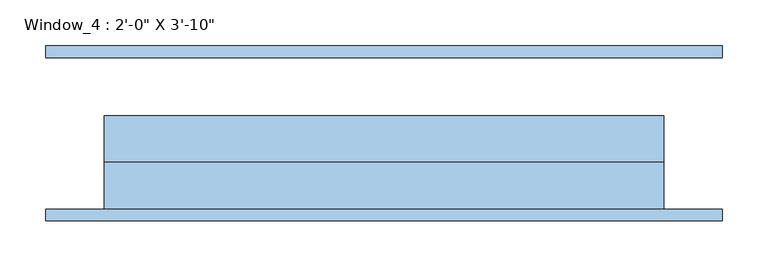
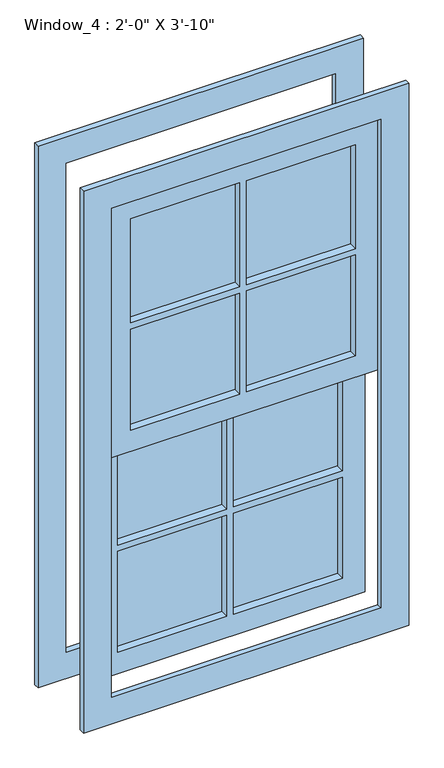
"""IFC4 building model written with IfcOpenShell, lengths in millimetres: window geometry."""

from ifc_helpers import new_model, si_unit, frame, origin, place, context, project, spatial, polyline, outline, extrude, source, transform, mapped, element, save


def window_7b8e3ef4(model_context):
    return source(origin(), model_context, "Body", "SweptSolid", [
        extrude(outline(polyline([(254.0, -50.8), (254.0, -64.0853592), (7.540625, -64.0853592), (7.540625, -50.8), (254.0, -50.8)])), frame((0.0, 0.0, 1732.75625), z_axis=(0.0, 0.0, 1.0), x_axis=(1.0, 0.0, 0.0)), (0.0, 0.0, 1.0), 248.44375),
        extrude(outline(polyline([(-7.540625, -50.8), (-7.540625, -64.0853592), (-254.0, -64.0853592), (-254.0, -50.8), (-7.540625, -50.8)])), frame((0.0, 0.0, 1732.75625), z_axis=(0.0, 0.0, 1.0), x_axis=(1.0, 0.0, 0.0)), (0.0, 0.0, 1.0), 248.44375),
        extrude(outline(polyline([(254.0, -50.8), (254.0, -64.0853592), (7.540625, -64.0853592), (7.540625, -50.8), (254.0, -50.8)])), frame((0.0, 0.0, 1476.375), z_axis=(0.0, 0.0, 1.0), x_axis=(1.0, 0.0, 0.0)), (0.0, 0.0, 1.0), 241.3),
        extrude(outline(polyline([(-7.540625, -50.8), (-7.540625, -64.0853592), (-254.0, -64.0853592), (-254.0, -50.8), (-7.540625, -50.8)])), frame((0.0, 0.0, 1476.375), z_axis=(0.0, 0.0, 1.0), x_axis=(1.0, 0.0, 0.0)), (0.0, 0.0, 1.0), 241.3),
        extrude(outline(polyline([(2032.0, -304.8), (1425.575, -304.8), (1425.575, 304.8), (2032.0, 304.8), (2032.0, -304.8)]), holes=[polyline([(1981.2, 7.540625), (1981.2, 254.0), (1732.75625, 254.0), (1732.75625, 7.540625), (1981.2, 7.540625)]), polyline([(1476.375, 7.540625), (1717.675, 7.540625), (1717.675, 254.0), (1476.375, 254.0), (1476.375, 7.540625)]), polyline([(1732.75625, -254.0), (1981.2, -254.0), (1981.2, -7.540625), (1732.75625, -7.540625), (1732.75625, -254.0)]), polyline([(1476.375, -254.0), (1717.675, -254.0), (1717.675, -7.540625), (1476.375, -7.540625), (1476.375, -254.0)])]), frame((0.0, -82.55, 0.0), z_axis=(0.0, 1.0, 0.0), x_axis=(0.0, 0.0, 1.0)), (0.0, 0.0, 1.0), 50.8),
        extrude(outline(polyline([(7.540625, -12.7), (7.540625, 0.0), (254.0, 0.0), (254.0, -12.7), (7.540625, -12.7)])), frame((0.0, 0.0, 1170.78125), z_axis=(0.0, 0.0, 1.0), x_axis=(1.0, 0.0, 0.0)), (0.0, 0.0, 1.0), 254.79375),
        extrude(outline(polyline([(7.540625, -12.7), (7.540625, 0.0), (254.0, 0.0), (254.0, -12.7), (7.540625, -12.7)])), frame((0.0, 0.0, 914.4), z_axis=(0.0, 0.0, 1.0), x_axis=(1.0, 0.0, 0.0)), (0.0, 0.0, 1.0), 241.3),
        extrude(outline(polyline([(-254.0, -12.7), (-254.0, 0.0), (-7.540625, 0.0), (-7.540625, -12.7), (-254.0, -12.7)])), frame((0.0, 0.0, 1170.78125), z_axis=(0.0, 0.0, 1.0), x_axis=(1.0, 0.0, 0.0)), (0.0, 0.0, 1.0), 254.79375),
        extrude(outline(polyline([(-254.0, -12.7), (-254.0, 0.0), (-7.540625, 0.0), (-7.540625, -12.7), (-254.0, -12.7)])), frame((0.0, 0.0, 914.4), z_axis=(0.0, 0.0, 1.0), x_axis=(1.0, 0.0, 0.0)), (0.0, 0.0, 1.0), 241.3),
        extrude(outline(polyline([(1476.375, -304.8), (863.6, -304.8), (863.6, 304.8), (1476.375, 304.8), (1476.375, -304.8)]), holes=[polyline([(1170.78125, -254.0), (1425.575, -254.0), (1425.575, -7.540625), (1170.78125, -7.540625), (1170.78125, -254.0)]), polyline([(914.4, 7.540625), (1155.7, 7.540625), (1155.7, 254.0), (914.4, 254.0), (914.4, 7.540625)]), polyline([(914.4, -254.0), (1155.7, -254.0), (1155.7, -7.540625), (914.4, -7.540625), (914.4, -254.0)]), polyline([(1425.575, 7.540625), (1425.575, 254.0), (1170.78125, 254.0), (1170.78125, 7.540625), (1425.575, 7.540625)])]), frame((0.0, -31.75, 0.0), z_axis=(0.0, 1.0, 0.0), x_axis=(0.0, 0.0, 1.0)), (0.0, 0.0, 1.0), 50.8),
        extrude(outline(polyline([(800.1, 368.3), (2095.5, 368.3), (2095.5, -368.3), (800.1, -368.3), (800.1, 368.3)]), holes=[polyline([(863.6, 304.8), (863.6, -304.8), (2032.0, -304.8), (2032.0, 304.8), (863.6, 304.8)])]), frame((0.0, 82.55, 0.0), z_axis=(0.0, 1.0, 0.0), x_axis=(0.0, 0.0, 1.0)), (0.0, 0.0, 1.0), 12.7),
        extrude(outline(polyline([(800.1, 368.3), (2095.5, 368.3), (2095.5, -368.3), (800.1, -368.3), (800.1, 368.3)]), holes=[polyline([(863.6, 304.8), (863.6, -304.8), (2032.0, -304.8), (2032.0, 304.8), (863.6, 304.8)])]), frame((0.0, -95.25, 0.0), z_axis=(0.0, 1.0, 0.0), x_axis=(0.0, 0.0, 1.0)), (0.0, 0.0, 1.0), 12.7),
    ])


if __name__ == "__main__":
    model = new_model("IFC4")
    model_context = context("Model", 3, world=origin())
    ifc_project = project(units=[si_unit("LENGTHUNIT", "METRE", prefix="MILLI")], contexts=[model_context])
    site = spatial("IfcSite", under=ifc_project)
    building = spatial("IfcBuilding", under=site)
    placement = place(None, origin())
    window_shape = window_7b8e3ef4(model_context)
    element("IfcWindow", 1, ObjectType="Window_4 : 2'-0\" X 3'-10\"", at=placement, inside=building, context=model_context, shape_type="MappedRepresentation", body=[
        mapped(window_shape, transform((0.0, 0.0, 0.0), x_axis=(1.0, 0.0, 0.0), y_axis=(0.0, 1.0, 0.0), z_axis=(0.0, 0.0, 1.0))),
    ])
    save(model, "model.ifc")
